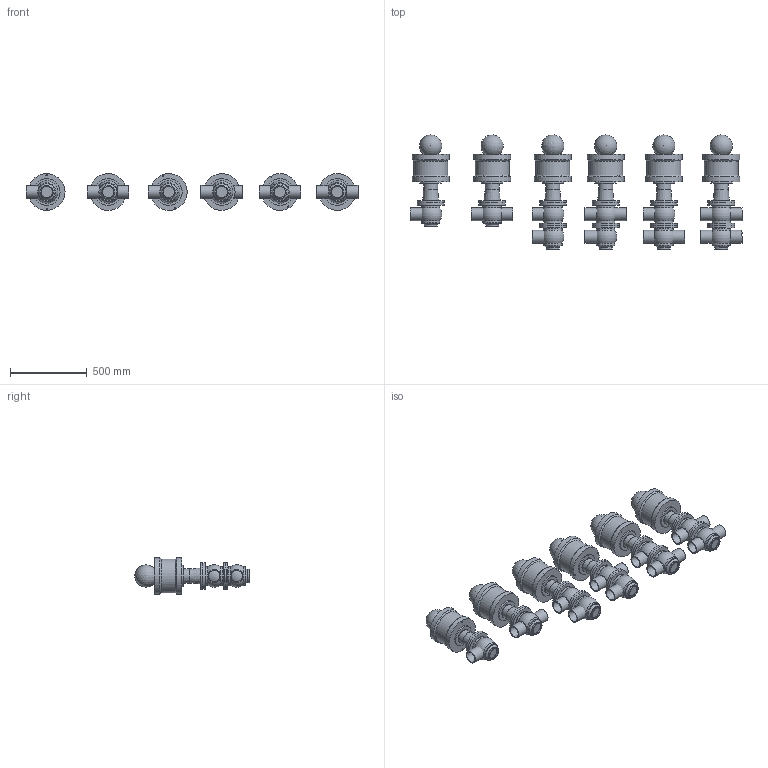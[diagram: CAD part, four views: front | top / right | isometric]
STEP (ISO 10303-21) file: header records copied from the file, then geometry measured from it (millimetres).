
FILE_DESCRIPTION(/* description */ (''),/* implementation_level */ '2;1');
FILE_NAME(/* name */ 'C:\Users\marz-m\Desktop\PDF\BBZQ 3D STEP\BBZQ-DN80-CIL.207.stp',/* time_stamp */ '2018-04-13T15:24:11+02:00',/* author */ ('marz-m'),/* organization */ (''),/* preprocessor_version */ 'ST-DEVELOPER v17',/* originating_system */ 'Autodesk Inventor 2018',/* authorisation */ '');
FILE_SCHEMA (('AUTOMOTIVE_DESIGN { 1 0 10303 214 3 1 1 }'));
Length unit declared in the file: millimetre
Products named in the file (8): BBZQ-DN80-CIL.207; assemblaggio dn80 per cil 207-360; CIL207-BBZQ; SAGOMA-GIOTTO-; COR-INF-L-BBZQ-DN080-SALD; COR-SUP-L-BBZQ-DN80; COR-SUP-T-BBZQ-DN80; COR-INF-T-BBZQ-DN080X3-SALD
Assembly tree (28 placements, depth 2):
  BBZQ-DN80-CIL.207
    assemblaggio dn80 per cil 207-360  x6
    COR-INF-L-BBZQ-DN080-SALD  x3
    COR-INF-T-BBZQ-DN080X3-SALD  x3
    COR-SUP-L-BBZQ-DN80  x2
    COR-SUP-T-BBZQ-DN80  x2
    CIL207-BBZQ  x6
    SAGOMA-GIOTTO-  x6
Bounding box: 2167.49 x 744.47 x 240 mm (x, y, z)
Volume: 84611253.2 mm3; surface area: 4221567.3 mm2
Topology: 31 solids, 31 shells, 331 faces, 815 edges, 602 vertices
Faces by surface type: cylinder 124, plane 118, sphere 33, torus 32, cone 24
Full cylindrical faces by diameter (mm): 5.657 x6, 8.944 x6, 75 x21, 85 x21, 92 x6, 120 x20, 141 x6, 174 x20, 221 x6, 240 x12
Entity records: 3697 total; most frequent: DIRECTION 699, CARTESIAN_POINT 654, ORIENTED_EDGE 492, AXIS2_PLACEMENT_3D 328, EDGE_CURVE 246, CIRCLE 193, VERTEX_POINT 183, EDGE_LOOP 121
